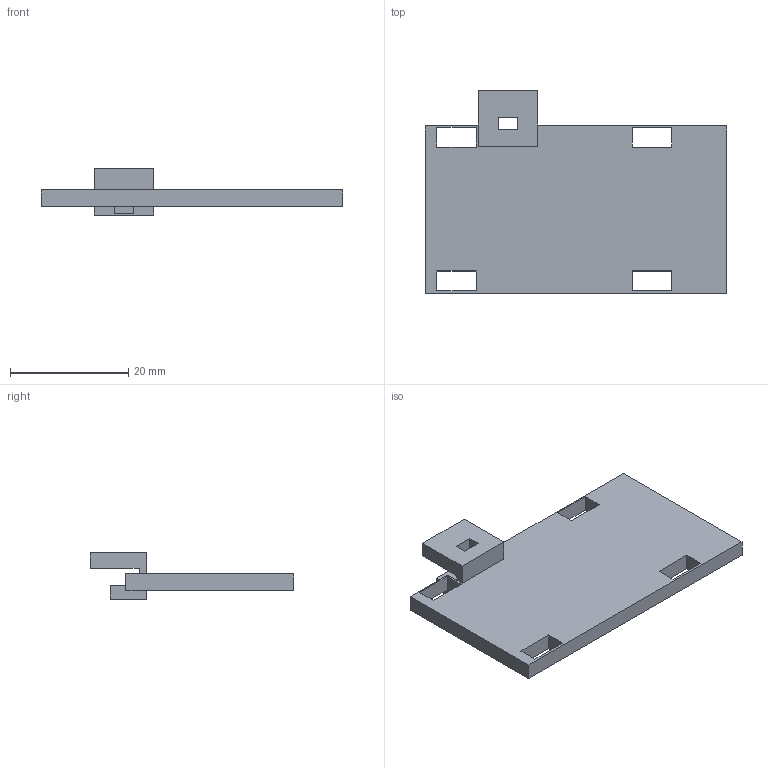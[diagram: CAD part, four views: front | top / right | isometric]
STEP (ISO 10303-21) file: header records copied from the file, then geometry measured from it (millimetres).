
FILE_DESCRIPTION(('FreeCAD Model'),'2;1');
FILE_NAME('Open CASCADE Shape Model','2026-11-20T16:32:56',('FreeCAD'),( 'FreeCAD'),'Open CASCADE STEP processor 7.8','FreeCAD','Unknown');
FILE_SCHEMA(('AUTOMOTIVE_DESIGN { 1 0 10303 214 1 1 1 1 }'));
Length unit declared in the file: millimetre
Products named in the file (1): Open CASCADE STEP translator 7.8 3
Bounding box: 51 x 34.3 x 7.8 mm (x, y, z)
Volume: 4074.3 mm3; surface area: 3822.4 mm2
Topology: 1 solids, 1 shells, 54 faces, 156 edges, 104 vertices
Faces by surface type: plane 54
Entity records: 1774 total; most frequent: CARTESIAN_POINT 315, ORIENTED_EDGE 312, DIRECTION 266, EDGE_CURVE 156, LINE 156, VECTOR 156, VERTEX_POINT 104, FACE_BOUND 66
